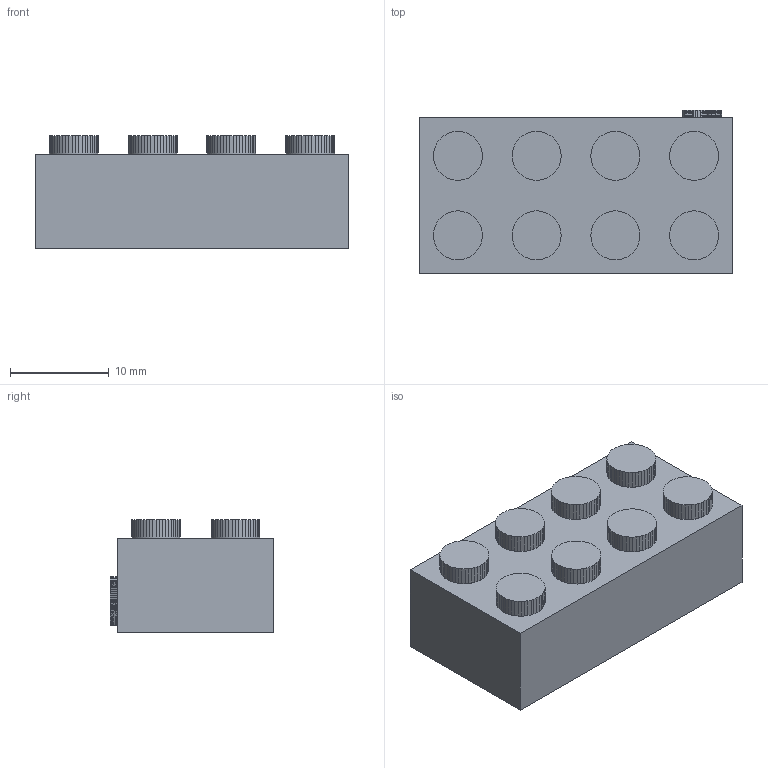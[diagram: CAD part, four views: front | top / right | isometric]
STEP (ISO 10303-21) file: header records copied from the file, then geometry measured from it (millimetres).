
FILE_DESCRIPTION(('Open CASCADE Model'),'2;1');
FILE_NAME('Open CASCADE Shape Model','2026-10-27T10:53:29',('Author'),( 'Open CASCADE'),'Open CASCADE STEP processor 7.9','Open CASCADE 7.9' ,'Unknown');
FILE_SCHEMA(('AUTOMOTIVE_DESIGN { 1 0 10303 214 1 1 1 1 }'));
Products named in the file (1): Open CASCADE STEP translator 7.9 1
Bounding box: 31.75 x 16.56 x 11.35 mm (x, y, z)
Volume: 2962.3 mm3; surface area: 3212 mm2
Topology: 1 solids, 9 shells, 1692 faces, 3982 edges, 2322 vertices
Faces by surface type: plane 1692
Entity records: 97882 total; most frequent: CARTESIAN_POINT 15961, DIRECTION 15332, LINE 11946, VECTOR 11946, ORIENTED_EDGE 7964, PCURVE 7964, DEFINITIONAL_REPRESENTATION 7964, EDGE_CURVE 3982
